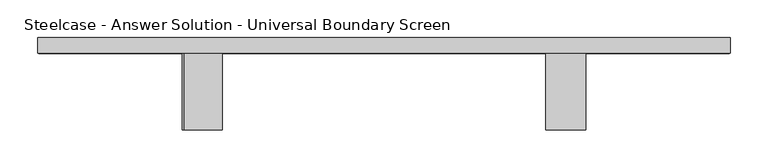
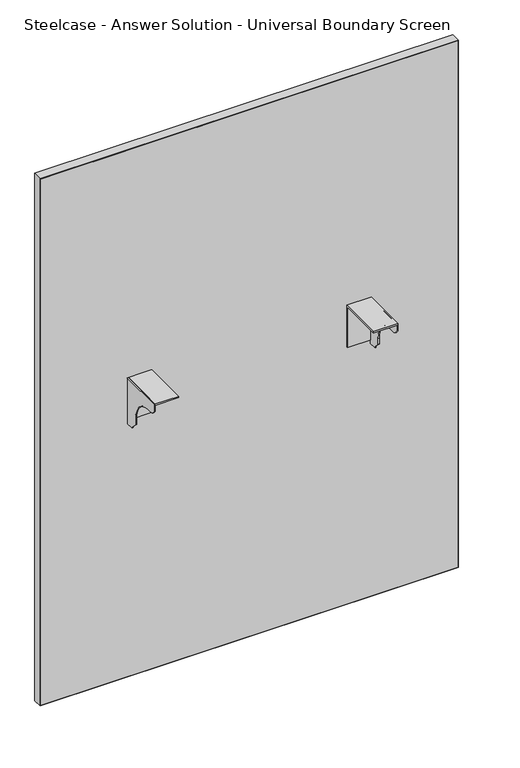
"""IFC4 building model written with IfcOpenShell, lengths in millimetres: furniture geometry, Steelcase - Answer Solution - Universal Boundary Screen : 48H x 36W."""

from ifc_helpers import new_model, si_unit, point, frame, frame_2d, origin, place, context, project, spatial, polyline, circle_curve, trimmed, segment, composite_curve, outline, extrude, source, transform, mapped, element, save


def steelcase_answer_solution_universal_boundary_screen_f670f772(model_context):
    return source(origin(), model_context, "Body", "SweptSolid", [
        extrude(outline(polyline([(-103.1670434, 689.3558876), (-103.1670434, 692.1499758), (-1.5668826, 692.1499758), (-1.5668826, 595.5029317), (-4.1079736, 595.5029317), (-4.1079736, 689.3558876), (-103.1670434, 689.3558876)])), frame((743.4336711, 0.0, 0.0), z_axis=(1.0, 0.0, 0.0), x_axis=(0.0, 1.0, 0.0)), (0.0, 0.0, 1.0), 53.3444116),
        extrude(outline(composite_curve([segment(polyline([(-103.1670434, 679.2814802), (-103.1670434, 692.1499758), (-1.5668826, 692.1499758), (-1.5668826, 586.9634093), (-19.8232934, 586.9634093), (-19.8232934, 589.7574248), (-32.0458032, 601.9799346), (-32.0458032, 615.7814802)]), True, "CONTINUOUS"), segment(trimmed(circle_curve(frame_2d((-82.8458032, 615.7814802)), 50.8), [point((-32.0458032, 615.7814802))], [point((-82.8458032, 666.5814802))], True, "CARTESIAN"), True, "CONTINUOUS"), segment(polyline([(-82.8458032, 666.5814802), (-90.4670434, 666.5814802)]), True, "CONTINUOUS"), segment(trimmed(circle_curve(frame_2d((-90.4670434, 679.2814802)), 12.7), [point((-90.4670434, 666.5814802))], [point((-103.1670434, 679.2814802))], False, "CARTESIAN"), True, "CONTINUOUS")], self_intersect=False)), frame((794.2328959, 0.0, 0.0), z_axis=(1.0, 0.0, 0.0), x_axis=(0.0, 1.0, 0.0)), (0.0, 0.0, 1.0), 2.5451868),
        extrude(outline(polyline([(-103.1670434, 689.3558876), (-103.1670434, 692.1499758), (-1.5668826, 692.1499758), (-1.5668826, 595.5029317), (-4.1079736, 595.5029317), (-4.1079736, 689.3558876), (-103.1670434, 689.3558876)])), frame((265.9232694, 0.0, 0.0), z_axis=(1.0, 0.0, 0.0), x_axis=(0.0, 1.0, 0.0)), (0.0, 0.0, 1.0), 50.7992249),
        extrude(outline(composite_curve([segment(polyline([(-103.1670434, 679.2814802), (-103.1670434, 692.1499758), (-1.5668826, 692.1499758), (-1.5668826, 586.9634093), (-19.8232934, 586.9634093), (-19.8232934, 589.7574248), (-32.0458032, 601.9799346), (-32.0458032, 615.7814802)]), True, "CONTINUOUS"), segment(trimmed(circle_curve(frame_2d((-82.8458032, 615.7814802)), 50.8), [point((-32.0458032, 615.7814802))], [point((-82.8458032, 666.5814802))], True, "CARTESIAN"), True, "CONTINUOUS"), segment(polyline([(-82.8458032, 666.5814802), (-90.4670434, 666.5814802)]), True, "CONTINUOUS"), segment(trimmed(circle_curve(frame_2d((-90.4670434, 679.2814802)), 12.7), [point((-90.4670434, 666.5814802))], [point((-103.1670434, 679.2814802))], False, "CARTESIAN"), True, "CONTINUOUS")], self_intersect=False)), frame((263.3780827, 0.0, 0.0), z_axis=(1.0, 0.0, 0.0), x_axis=(0.0, 1.0, 0.0)), (0.0, 0.0, 1.0), 2.5451868),
        extrude(outline(polyline([(73.8706578, 18.9055112), (986.2855076, 18.9055112), (986.2855076, -1.5668826), (73.8706578, -1.5668826), (73.8706578, 18.9055112)])), frame((0.0, 0.0, 1.016), z_axis=(0.0, 0.0, 1.0), x_axis=(1.0, 0.0, 0.0)), (0.0, 0.0, 1.0), 1217.1914249),
        extrude(outline(polyline([(1219.2, 987.2780827), (1219.2, 72.8780827), (0.0, 72.8780827), (0.0, 987.2780827), (1219.2, 987.2780827)]), holes=[polyline([(1218.2074249, 986.2855076), (1.016, 986.2855076), (1.016, 73.8706578), (1218.2074249, 73.8706578), (1218.2074249, 986.2855076)])]), frame((0.0, -1.5668826, 0.0), z_axis=(0.0, 1.0, 0.0), x_axis=(0.0, 0.0, 1.0)), (0.0, 0.0, 1.0), 20.4723938),
    ])


if __name__ == "__main__":
    model = new_model("IFC4")
    model_context = context("Model", 3, world=origin())
    ifc_project = project(units=[si_unit("LENGTHUNIT", "METRE", prefix="MILLI")], contexts=[model_context])
    site = spatial("IfcSite", under=ifc_project)
    building = spatial("IfcBuilding", under=site)
    placement = place(None, origin())
    steelcase_answer_solution_universal_boundary_screen_shape = steelcase_answer_solution_universal_boundary_screen_f670f772(model_context)
    element("IfcFurniture", 1, ObjectType="Steelcase - Answer Solution - Universal Boundary Screen : 48H x 36W", at=placement, inside=building, context=model_context, shape_type="MappedRepresentation", body=[
        mapped(steelcase_answer_solution_universal_boundary_screen_shape, transform((0.0, 0.0, 0.0), x_axis=(1.0, 0.0, 0.0), y_axis=(0.0, 1.0, 0.0), z_axis=(0.0, 0.0, 1.0))),
    ])
    save(model, "model.ifc")
